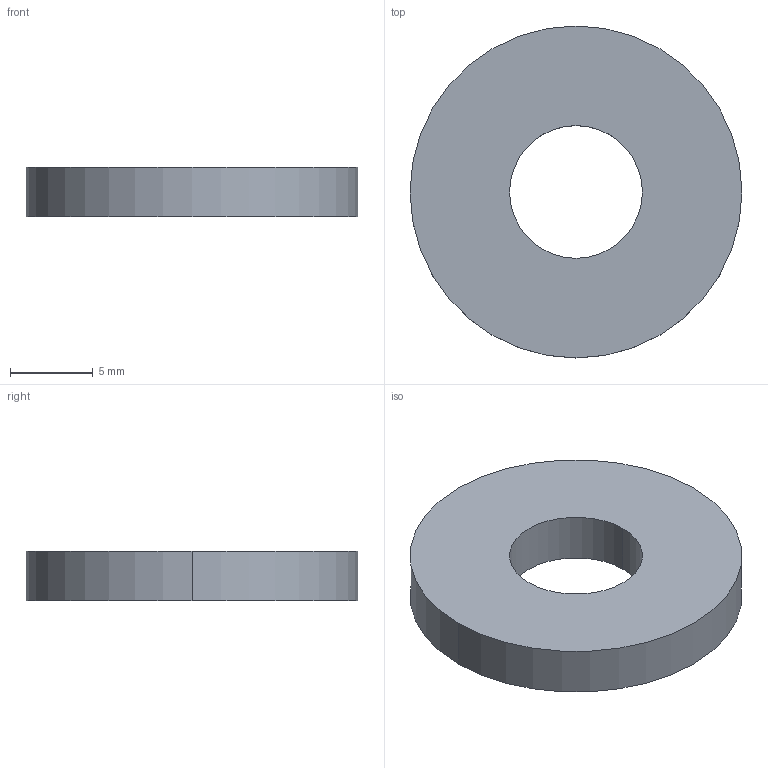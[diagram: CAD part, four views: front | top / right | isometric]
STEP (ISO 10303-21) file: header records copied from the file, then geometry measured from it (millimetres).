
FILE_DESCRIPTION (( 'STEP AP203' ), '1' );
FILE_NAME ('Support pignon bouton.STEP', '2025-09-18T11:49:23', ( '' ), ( '' ), 'SwSTEP 2.0', 'SolidWorks 2019', '' );
FILE_SCHEMA (( 'CONFIG_CONTROL_DESIGN' ));
Length unit declared in the file: millimetre
Products named in the file (1): Support pignon bouton
Bounding box: 20 x 20 x 3 mm (x, y, z)
Volume: 791.7 mm3; surface area: 791.7 mm2
Topology: 1 solids, 1 shells, 6 faces, 12 edges, 8 vertices
Faces by surface type: cylinder 4, plane 2
Entity records: 245 total; most frequent: DIRECTION 34, CARTESIAN_POINT 27, ORIENTED_EDGE 24, AXIS2_PLACEMENT_3D 15, EDGE_CURVE 12, PERSON_AND_ORGANIZATION 8, CIRCLE 8, EDGE_LOOP 8
